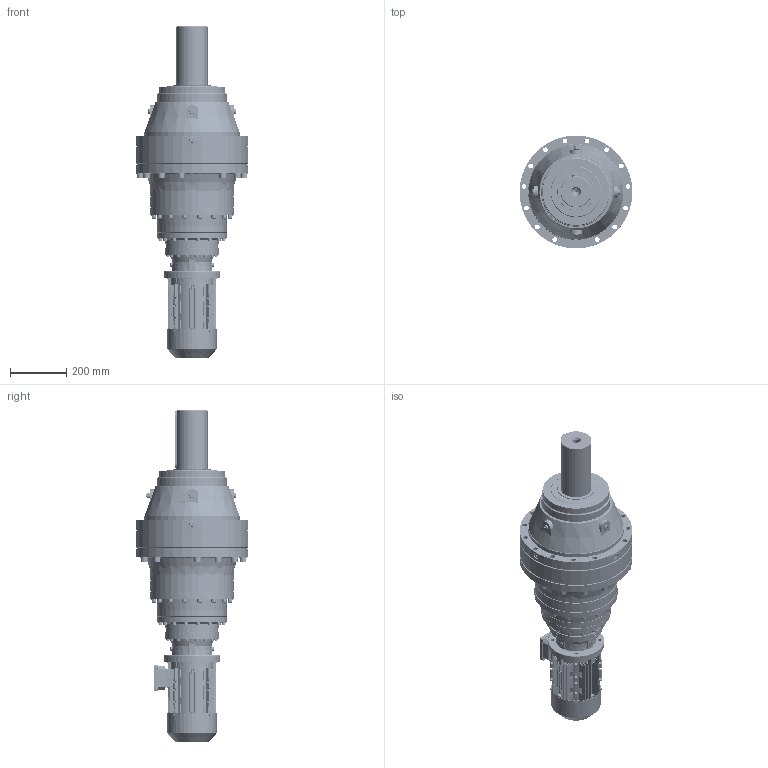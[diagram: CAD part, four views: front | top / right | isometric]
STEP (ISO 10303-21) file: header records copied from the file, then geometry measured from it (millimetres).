
FILE_DESCRIPTION (( 'STEP AP203' ), '1' );
FILE_NAME ('PVL_2704L-90L-4.STEP', '2019-05-10T07:49:05', ( '' ), ( '' ), 'SwSTEP 2.0', 'SolidWorks 2012', '' );
FILE_SCHEMA (( 'CONFIG_CONTROL_DESIGN' ));
Length unit declared in the file: millimetre
Products named in the file (30): IE3 90L rotor_2; IE3 90L casing_2; IE3 90L fan cover_2; IE3 90L fan_2; FL12A_Varsayìlan; PNL_2704L_0_0_A09_B5_ML43A_FL12A_0_0_0_0_0_0_0_0_0_0_0_M1; EK2704L_Varsayìlan; P27_Varsayìlan; 1190B5_Varsayìlan; ML43A_Varsayìlan; MX3-90L_B5; hexagon socket head cap screws gb_GB_FASTENER_SCREWS_HSHCS M6X40-N; PVL_2704L-90L-4; hexagon nuts grade c gb_GB_FASTENER_NUT_SNC1 M6-N_2; IE3 90L  oil seal_2; IE3 90L flangeB5; IE3 90L cable glandsM16_2; plain washers-n series-grade a gb_GB_FASTENER_WASHER_PWNA 4_2; IE3 90L grouding mark_2; cross recessed pan head screws gb_GB_CROSS_SCREWS_TYPE1 M5X10-10  H type-N_2; cross recessed pan head screws gb_GB_CROSS_SCREWS_TYPE1 M4X5-5  H type-N_2; IE3 90L flange_2; circlips for shaft--type a large gb_GB_CONNECTING_PIECE_RING_RRA 19_2; hexagon socket head cap screws gb_GB_FASTENER_SCREWS_HSHCS M6X30-N_2; IE3 90L terminal box cover_2; hexagon flange head tapping screws gb_GB_SQUARE_AND_HEXAGON_TYPE137 ST4.2X9.5 F-N_2; cross recessed pan head tapping screws gb_GB_CROSS_SCREWS_TYPE128 ST4.2X9.5 H C-N_2; spring lock washers--normal type gb_GB_FASTENER_WASHER_SW 6_2; IE3 90L terminal box_2; plain parallel keys_GB_CONNECTING_PIECE_KEYS_CSK 8X40_2
Assembly tree (58 placements, depth 3):
  PVL_2704L-90L-4
    PNL_2704L_0_0_A09_B5_ML43A_FL12A_0_0_0_0_0_0_0_0_0_0_0_M1
      P27_Varsayìlan
      1190B5_Varsayìlan
      ML43A_Varsayìlan
      EK2704L_Varsayìlan
      FL12A_Varsayìlan
    MX3-90L_B5
      IE3 90L casing_2
      IE3 90L rotor_2
      IE3 90L fan_2
      IE3 90L fan cover_2
      plain parallel keys_GB_CONNECTING_PIECE_KEYS_CSK 8X40_2
      IE3 90L terminal box_2
      IE3 90L terminal box cover_2
      spring lock washers--normal type gb_GB_FASTENER_WASHER_SW 6_2  x8
      cross recessed pan head tapping screws gb_GB_CROSS_SCREWS_TYPE128 ST4.2X9.5 H C-N_2  x4
      hexagon flange head tapping screws gb_GB_SQUARE_AND_HEXAGON_TYPE137 ST4.2X9.5 F-N_2  x4
      hexagon socket head cap screws gb_GB_FASTENER_SCREWS_HSHCS M6X30-N_2  x4
      IE3 90L flange_2
      circlips for shaft--type a large gb_GB_CONNECTING_PIECE_RING_RRA 19_2
      IE3 90L grouding mark_2
      plain washers-n series-grade a gb_GB_FASTENER_WASHER_PWNA 4_2
      cross recessed pan head screws gb_GB_CROSS_SCREWS_TYPE1 M4X5-5  H type-N_2
      cross recessed pan head screws gb_GB_CROSS_SCREWS_TYPE1 M5X10-10  H type-N_2  x4
      IE3 90L cable glandsM16_2  x2
      IE3 90L  oil seal_2
      hexagon nuts grade c gb_GB_FASTENER_NUT_SNC1 M6-N_2  x7
      IE3 90L flangeB5
      hexagon socket head cap screws gb_GB_FASTENER_SCREWS_HSHCS M6X40-N  x4
Bounding box: 400 x 400 x 1176.5 mm (x, y, z)
Volume: 48629337.3 mm3; surface area: 2556648.9 mm2
Topology: 64 solids, 64 shells, 7502 faces, 19390 edges, 12036 vertices
Faces by surface type: plane 3026, cylinder 2432, bspline 1362, cone 528, sphere 100, torus 54
Entity records: 261115 total; most frequent: CARTESIAN_POINT 97590, ORIENTED_EDGE 35342, DIRECTION 31132, EDGE_CURVE 17671, AXIS2_PLACEMENT_3D 11689, VERTEX_POINT 11112, LINE 7754, VECTOR 7754
